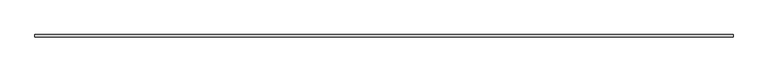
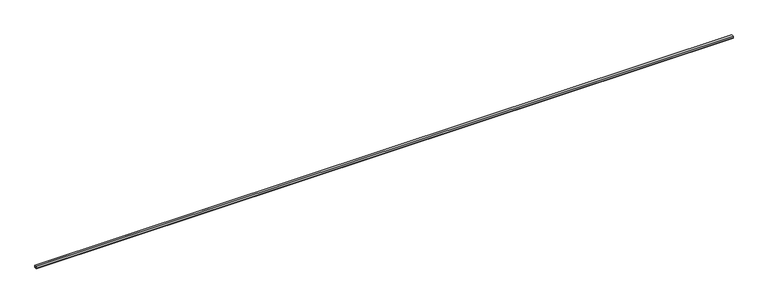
"""IFC4 building model written with IfcOpenShell, lengths in millimetres: light fixture geometry, 20207_レースウェイ : 45型×w40."""

from ifc_helpers import new_model, si_unit, frame, origin, place, context, project, spatial, polyline, outline, extrude, source, transform, mapped, element, save


def light_fixture_b9967bf4(model_context):
    return source(origin(), model_context, "Body", "SweptSolid", [
        extrude(outline(polyline([(-21.7, 8.2), (-20.5, 8.2), (-20.5, 1.2), (20.5, 1.2), (20.5, 8.2), (21.7, 8.2), (21.7, 0.0), (-21.7, 0.0), (-21.7, 8.2)])), frame((-6827.5, 0.0, 0.0), z_axis=(1.0, 0.0, 0.0), x_axis=(0.0, 1.0, 0.0)), (0.0, 0.0, 1.0), 13655.0),
        extrude(outline(polyline([(-20.0, 46.2), (20.0, 46.2), (20.0, 1.2), (18.4, 1.2), (10.0, 11.2), (11.2251278, 12.2291073), (18.4, 3.6875928), (18.4, 44.6), (-18.4, 44.6), (-18.4, 3.6875928), (-11.2251278, 12.2291073), (-10.0, 11.2), (-18.4, 1.2), (-20.0, 1.2), (-20.0, 46.2)])), frame((-6827.5, 0.0, 0.0), z_axis=(1.0, 0.0, 0.0), x_axis=(0.0, 1.0, 0.0)), (0.0, 0.0, 1.0), 13655.0),
    ])


if __name__ == "__main__":
    model = new_model("IFC4")
    model_context = context("Model", 3, world=origin())
    ifc_project = project(units=[si_unit("LENGTHUNIT", "METRE", prefix="MILLI")], contexts=[model_context])
    site = spatial("IfcSite", under=ifc_project)
    building = spatial("IfcBuilding", under=site)
    placement = place(None, origin())
    light_fixture_shape = light_fixture_b9967bf4(model_context)
    element("IfcLightFixture", 1, ObjectType="20207_レースウェイ : 45型×w40", at=placement, inside=building, context=model_context, shape_type="MappedRepresentation", body=[
        mapped(light_fixture_shape, transform((0.0, 0.0, 0.0), x_axis=(1.0, 0.0, 0.0), y_axis=(0.0, 1.0, 0.0), z_axis=(0.0, 0.0, 1.0))),
    ])
    save(model, "model.ifc")
